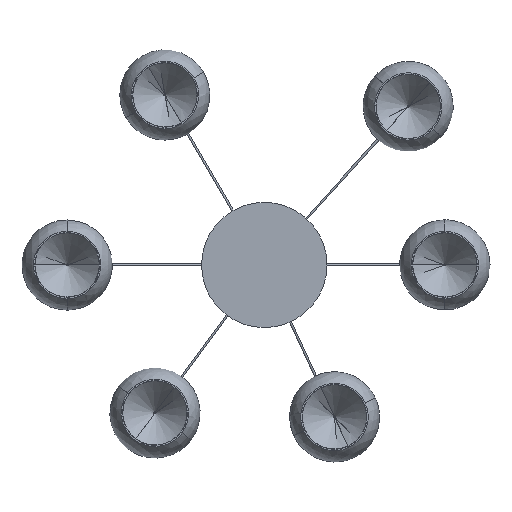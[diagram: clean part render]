
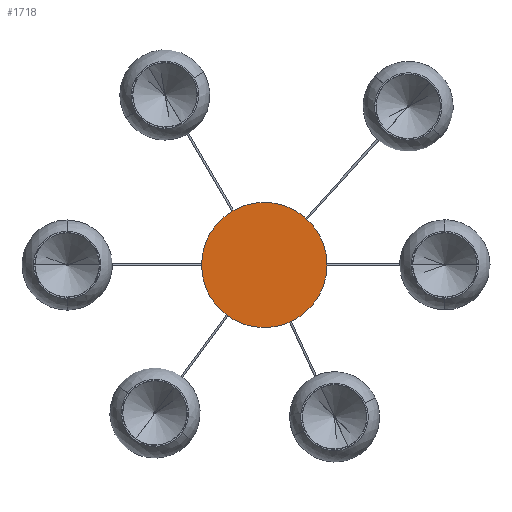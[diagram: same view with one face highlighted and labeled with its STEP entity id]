
A CAD part, front view. The second image highlights one B-rep face of the part: STEP entity #1718.
In plain terms, the highlighted planar face has unit normal (0, -1, 0).
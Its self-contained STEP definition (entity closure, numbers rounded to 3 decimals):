
#16 = DIRECTION ( 'NONE',  ( 0., -1., 0. ) ) ;
#74 = DIRECTION ( 'NONE',  ( 0., 0., -1. ) ) ;
#295 = DIRECTION ( 'NONE',  ( 0., -1., 0. ) ) ;
#788 = CARTESIAN_POINT ( 'NONE',  ( 125., -17., 0. ) ) ;
#1699 = DIRECTION ( 'NONE',  ( 0., 0., -1. ) ) ;
#1718 = ADVANCED_FACE ( 'NONE', ( #4612 ), #4176, .T. ) ;
#1956 = DIRECTION ( 'NONE',  ( 0., 0., -1. ) ) ;
#2047 = ORIENTED_EDGE ( 'NONE', *, *, #5040, .T. ) ;
#2177 = DIRECTION ( 'NONE',  ( 0., -1., 0. ) ) ;
#2750 = CARTESIAN_POINT ( 'NONE',  ( 0., -17., 125. ) ) ;
#3653 = VERTEX_POINT ( 'NONE', #4793 ) ;
#4139 = AXIS2_PLACEMENT_3D ( 'NONE', #4196, #16, #1699 ) ;
#4176 = PLANE ( 'NONE',  #5213 ) ;
#4196 = CARTESIAN_POINT ( 'NONE',  ( 0., -17., 0. ) ) ;
#4381 = EDGE_LOOP ( 'NONE', ( #2047, #4514 ) ) ;
#4514 = ORIENTED_EDGE ( 'NONE', *, *, #4515, .T. ) ;
#4515 = EDGE_CURVE ( 'NONE', #4984, #3653, #5274, .T. ) ;
#4612 = FACE_OUTER_BOUND ( 'NONE', #4381, .T. ) ;
#4776 = CIRCLE ( 'NONE', #5116, 125. ) ;
#4793 = CARTESIAN_POINT ( 'NONE',  ( 0., -17., -125. ) ) ;
#4894 = CARTESIAN_POINT ( 'NONE',  ( 0., -17., 0. ) ) ;
#4984 = VERTEX_POINT ( 'NONE', #2750 ) ;
#5040 = EDGE_CURVE ( 'NONE', #3653, #4984, #4776, .T. ) ;
#5116 = AXIS2_PLACEMENT_3D ( 'NONE', #4894, #295, #1956 ) ;
#5213 = AXIS2_PLACEMENT_3D ( 'NONE', #788, #2177, #74 ) ;
#5274 = CIRCLE ( 'NONE', #4139, 125. ) ;
